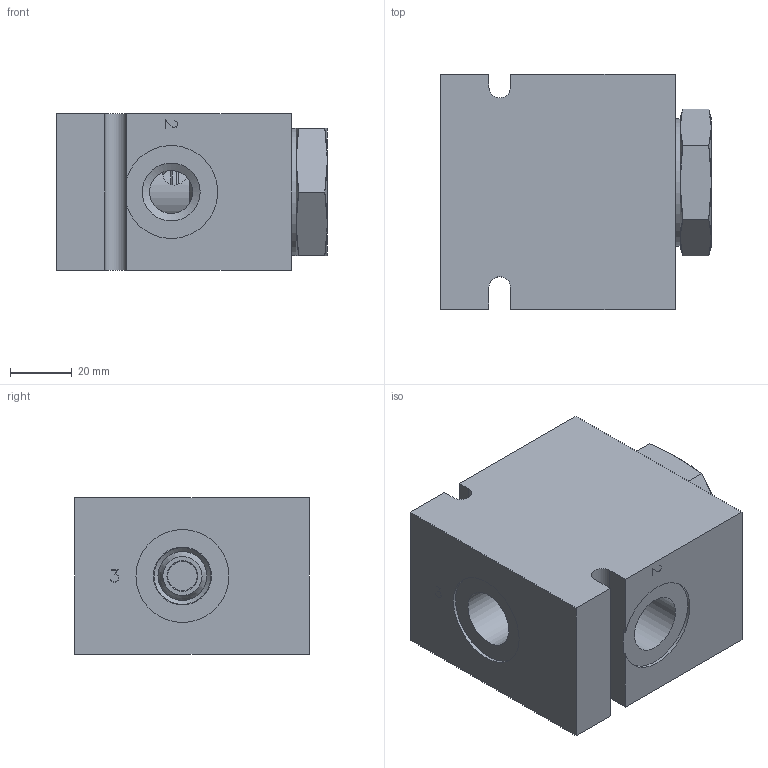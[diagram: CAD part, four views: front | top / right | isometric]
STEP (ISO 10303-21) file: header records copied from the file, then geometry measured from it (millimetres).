
FILE_DESCRIPTION( ( 'Unknown' ), '1' );
FILE_NAME( 'G:/Graphic Design/Graphic Design 2/Data Sheets/LOGIC ELEMENTS/2_STP/D-SLPLA00C3.stp', 'Unknown', ( 'Unknown' ), ( 'Unknown' ), 'PSStep 16.0.42', 'Unknown', ' ' );
FILE_SCHEMA( ( 'AUTOMOTIVE_DESIGN { 1 0 10303 214 1 1 1 1 }' ) );
Length unit declared in the file: millimetre
Products named in the file (11): SLPLA00; SLPLA00-3D Full1; SLPLA00-3D Full2; SLPLA00-3D Full3; SLPLA00-3D Full4; SLPLA00-3D Full5; SLPLA00-3D Full6; SLPLA00-3D Full7; SLPLA00-3D Full8; Assem1; B-DSLC3
Assembly tree (10 placements, depth 3):
  Assem1
    B-DSLC3
    SLPLA00
      SLPLA00-3D Full1
      SLPLA00-3D Full2
      SLPLA00-3D Full3
      SLPLA00-3D Full4
      SLPLA00-3D Full5
      SLPLA00-3D Full6
      SLPLA00-3D Full7
      SLPLA00-3D Full8
Bounding box: 87.9 x 76.2 x 50.8 mm (x, y, z)
Surface area: 53327.2 mm2 (no closed solid volume)
Topology: 0 solids, 226 shells, 226 faces, 959 edges, 875 vertices
Faces by surface type: plane 125, cylinder 54, cone 41, torus 6
Full cylindrical faces by diameter (mm): 6.3 x1, 7.925 x4, 9.525 x2, 10.109 x1, 11.5 x2, 14 x1, 15.875 x1, 15.922 x2, 16.51 x1, 17.446 x3, 17.479 x1, 18.8 x3, 21.006 x1, 21.031 x2, 22.22 x1, 23 x1, 24.13 x1, 24.181 x1, 24.206 x2, 25.349 x4, 25.4 x1, 27.051 x1, 28.524 x4, 28.6 x1, 28.651 x1, 30.17 x1, 30.328 x1, 31.806 x2, 41.275 x1, 48.514 x1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
Entity records: 12156 total; most frequent: CARTESIAN_POINT 3681, DIRECTION 1242, VERTEX_POINT 853, ORIENTED_EDGE 850, EDGE_CURVE 850, AXIS2_PLACEMENT_3D 500, FACE_BOUND 351, EDGE_LOOP 348
